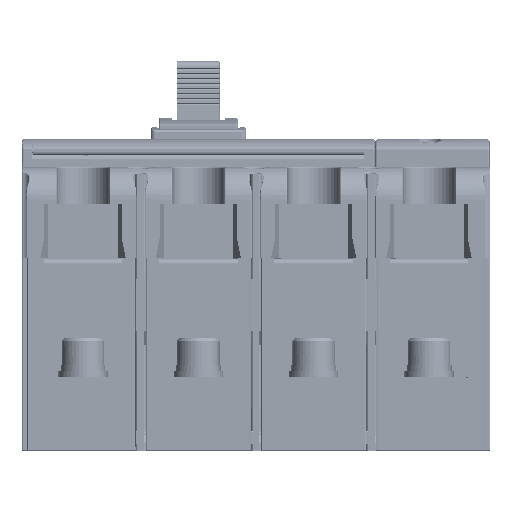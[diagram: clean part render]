
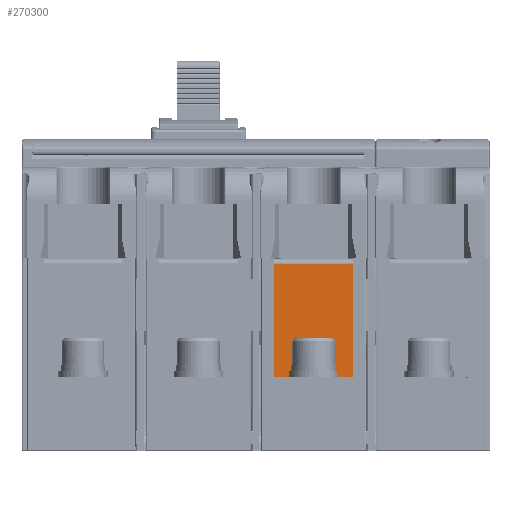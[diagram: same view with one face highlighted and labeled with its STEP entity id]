
A CAD part, front view. The second image highlights one B-rep face of the part: STEP entity #270300.
In plain terms, the highlighted planar face has unit normal (0, -1, 0) as drawn and (1, 0, 0) by its records, which use the part's own axes.
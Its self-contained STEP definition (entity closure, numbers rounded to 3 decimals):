
#45 = DIRECTION ( 'NONE',  ( 1., 0., 0. ) ) ;
#6489 = FACE_OUTER_BOUND ( 'NONE', #110558, .T. ) ;
#28285 = CARTESIAN_POINT ( 'NONE',  ( 83.5, -23.7, -46. ) ) ;
#28620 = VERTEX_POINT ( 'NONE', #28285 ) ;
#31424 = ORIENTED_EDGE ( 'NONE', *, *, #248199, .F. ) ;
#45924 = VERTEX_POINT ( 'NONE', #47232 ) ;
#47232 = CARTESIAN_POINT ( 'NONE',  ( 83.5, -23.7, -24. ) ) ;
#50247 = VECTOR ( 'NONE', #229311, 1000. ) ;
#50379 = VERTEX_POINT ( 'NONE', #218320 ) ;
#53199 = CARTESIAN_POINT ( 'NONE',  ( 83.5, -23.7, -24. ) ) ;
#53293 = VERTEX_POINT ( 'NONE', #152152 ) ;
#59308 = DIRECTION ( 'NONE',  ( 0., 0., -1. ) ) ;
#63242 = EDGE_CURVE ( 'NONE', #202738, #141063, #192915, .T. ) ;
#64490 = CARTESIAN_POINT ( 'NONE',  ( 83.5, -23.689, -23.1 ) ) ;
#66090 = AXIS2_PLACEMENT_3D ( 'NONE', #128490, #178091, #220091 ) ;
#71786 = VECTOR ( 'NONE', #121041, 1000. ) ;
#75043 = LINE ( 'NONE', #193025, #153478 ) ;
#80522 = EDGE_CURVE ( 'NONE', #45924, #242685, #161463, .T. ) ;
#80586 = ORIENTED_EDGE ( 'NONE', *, *, #240623, .T. ) ;
#91150 = LINE ( 'NONE', #184293, #50247 ) ;
#91998 = ORIENTED_EDGE ( 'NONE', *, *, #203412, .T. ) ;
#98176 = CARTESIAN_POINT ( 'NONE',  ( 83.5, 5.55, -35. ) ) ;
#99007 = EDGE_CURVE ( 'NONE', #183593, #141063, #293222, .T. ) ;
#110558 = EDGE_LOOP ( 'NONE', ( #91998, #130167, #198894, #31424, #80586, #273719, #190222, #247981 ) ) ;
#121041 = DIRECTION ( 'NONE',  ( 0., 1., 0. ) ) ;
#128490 = CARTESIAN_POINT ( 'NONE',  ( 83.5, -22.7, -23.25 ) ) ;
#130167 = ORIENTED_EDGE ( 'NONE', *, *, #80522, .F. ) ;
#141063 = VERTEX_POINT ( 'NONE', #233842 ) ;
#152152 = CARTESIAN_POINT ( 'NONE',  ( 83.5, -23.7, -46.75 ) ) ;
#153478 = VECTOR ( 'NONE', #172777, 1000. ) ;
#156989 = CIRCLE ( 'NONE', #285753, 1. ) ;
#161463 = LINE ( 'NONE', #260339, #208021 ) ;
#172170 = CARTESIAN_POINT ( 'NONE',  ( 83.5, -23.689, -23.1 ) ) ;
#172777 = DIRECTION ( 'NONE',  ( 0., 0., 1. ) ) ;
#177674 = CARTESIAN_POINT ( 'NONE',  ( 83.5, 10.6, -46.9 ) ) ;
#178091 = DIRECTION ( 'NONE',  ( 1., 0., 0. ) ) ;
#183593 = VERTEX_POINT ( 'NONE', #64490 ) ;
#184293 = CARTESIAN_POINT ( 'NONE',  ( 83.5, -23.689, -46.9 ) ) ;
#190222 = ORIENTED_EDGE ( 'NONE', *, *, #63242, .T. ) ;
#192915 = LINE ( 'NONE', #265816, #236184 ) ;
#193025 = CARTESIAN_POINT ( 'NONE',  ( 83.5, -23.7, -46.75 ) ) ;
#195501 = VECTOR ( 'NONE', #59308, 1000. ) ;
#198894 = ORIENTED_EDGE ( 'NONE', *, *, #204427, .T. ) ;
#199925 = CIRCLE ( 'NONE', #66090, 1. ) ;
#202738 = VERTEX_POINT ( 'NONE', #177674 ) ;
#203412 = EDGE_CURVE ( 'NONE', #183593, #242685, #199925, .T. ) ;
#204427 = EDGE_CURVE ( 'NONE', #45924, #28620, #220809, .T. ) ;
#208021 = VECTOR ( 'NONE', #285156, 1000. ) ;
#212728 = CARTESIAN_POINT ( 'NONE',  ( 83.5, -22.7, -46.75 ) ) ;
#217634 = PLANE ( 'NONE',  #241511 ) ;
#217700 = DIRECTION ( 'NONE',  ( 0., 0., 1. ) ) ;
#218320 = CARTESIAN_POINT ( 'NONE',  ( 83.5, -23.689, -46.9 ) ) ;
#220091 = DIRECTION ( 'NONE',  ( 0., -0.989, 0.15 ) ) ;
#220809 = LINE ( 'NONE', #53199, #195501 ) ;
#229311 = DIRECTION ( 'NONE',  ( 0., 1., 0. ) ) ;
#233842 = CARTESIAN_POINT ( 'NONE',  ( 83.5, 10.6, -23.1 ) ) ;
#236184 = VECTOR ( 'NONE', #217700, 1000. ) ;
#240623 = EDGE_CURVE ( 'NONE', #53293, #50379, #156989, .T. ) ;
#241511 = AXIS2_PLACEMENT_3D ( 'NONE', #98176, #286009, #242473 ) ;
#242473 = DIRECTION ( 'NONE',  ( 0., 0., 1. ) ) ;
#242685 = VERTEX_POINT ( 'NONE', #275045 ) ;
#247981 = ORIENTED_EDGE ( 'NONE', *, *, #99007, .F. ) ;
#248199 = EDGE_CURVE ( 'NONE', #53293, #28620, #75043, .T. ) ;
#260339 = CARTESIAN_POINT ( 'NONE',  ( 83.5, -23.7, -24. ) ) ;
#265816 = CARTESIAN_POINT ( 'NONE',  ( 83.5, 10.6, -46.9 ) ) ;
#270300 = ADVANCED_FACE ( 'NONE', ( #6489 ), #217634, .F. ) ;
#273719 = ORIENTED_EDGE ( 'NONE', *, *, #281611, .T. ) ;
#275045 = CARTESIAN_POINT ( 'NONE',  ( 83.5, -23.7, -23.25 ) ) ;
#281611 = EDGE_CURVE ( 'NONE', #50379, #202738, #91150, .T. ) ;
#284154 = DIRECTION ( 'NONE',  ( 0., -1., 0. ) ) ;
#285156 = DIRECTION ( 'NONE',  ( 0., 0., 1. ) ) ;
#285753 = AXIS2_PLACEMENT_3D ( 'NONE', #212728, #45, #284154 ) ;
#286009 = DIRECTION ( 'NONE',  ( -1., 0., 0. ) ) ;
#293222 = LINE ( 'NONE', #172170, #71786 ) ;
